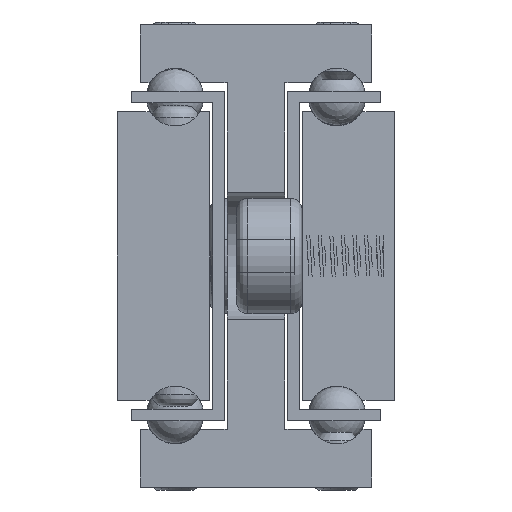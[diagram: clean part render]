
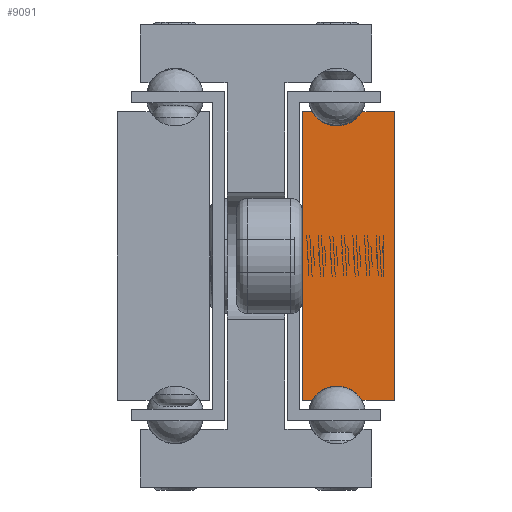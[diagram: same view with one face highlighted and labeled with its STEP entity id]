
A CAD part, front view. The second image highlights one B-rep face of the part: STEP entity #9091.
In plain terms, the highlighted planar face has unit normal (0, -1, 0).
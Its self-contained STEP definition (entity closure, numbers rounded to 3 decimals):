
#518=LINE('',#12792,#1352);
#521=LINE('',#12798,#1355);
#525=LINE('',#12810,#1359);
#528=LINE('',#12816,#1362);
#531=LINE('',#12822,#1365);
#535=LINE('',#12832,#1369);
#1352=VECTOR('',#10496,1.);
#1355=VECTOR('',#10501,1.);
#1359=VECTOR('',#10513,1.);
#1362=VECTOR('',#10518,1.);
#1365=VECTOR('',#10523,1.);
#1369=VECTOR('',#10535,1.);
#2191=PLANE('',#9753);
#2757=FACE_OUTER_BOUND('',#3337,.T.);
#3337=EDGE_LOOP('',(#6556,#6557,#6558,#6559,#6560,#6561,#6562,#6563));
#4085=CIRCLE('',#9744,2.5);
#4087=CIRCLE('',#9750,2.5);
#4312=VERTEX_POINT('',#12789);
#4313=VERTEX_POINT('',#12791);
#4315=VERTEX_POINT('',#12797);
#4317=VERTEX_POINT('',#12803);
#4319=VERTEX_POINT('',#12809);
#4321=VERTEX_POINT('',#12815);
#4323=VERTEX_POINT('',#12821);
#4325=VERTEX_POINT('',#12827);
#5254=EDGE_CURVE('',#4313,#4312,#518,.T.);
#5257=EDGE_CURVE('',#4315,#4313,#521,.T.);
#5260=EDGE_CURVE('',#4317,#4315,#4085,.T.);
#5263=EDGE_CURVE('',#4319,#4317,#525,.T.);
#5266=EDGE_CURVE('',#4321,#4319,#528,.T.);
#5269=EDGE_CURVE('',#4323,#4321,#531,.T.);
#5272=EDGE_CURVE('',#4325,#4323,#4087,.T.);
#5275=EDGE_CURVE('',#4312,#4325,#535,.T.);
#6556=ORIENTED_EDGE('',*,*,#5275,.T.);
#6557=ORIENTED_EDGE('',*,*,#5272,.T.);
#6558=ORIENTED_EDGE('',*,*,#5269,.T.);
#6559=ORIENTED_EDGE('',*,*,#5266,.T.);
#6560=ORIENTED_EDGE('',*,*,#5263,.T.);
#6561=ORIENTED_EDGE('',*,*,#5260,.T.);
#6562=ORIENTED_EDGE('',*,*,#5257,.T.);
#6563=ORIENTED_EDGE('',*,*,#5254,.T.);
#9091=ADVANCED_FACE('',(#2757),#2191,.T.);
#9744=AXIS2_PLACEMENT_3D('',#12804,#10507,#10508);
#9750=AXIS2_PLACEMENT_3D('',#12828,#10529,#10530);
#9753=AXIS2_PLACEMENT_3D('',#12834,#10538,#10539);
#10496=DIRECTION('',(0.,0.,-1.));
#10501=DIRECTION('',(-1.,0.,0.));
#10507=DIRECTION('center_axis',(0.,1.,0.));
#10508=DIRECTION('ref_axis',(-0.866,0.,-0.5));
#10513=DIRECTION('',(-1.,0.,0.));
#10518=DIRECTION('',(0.,0.,1.));
#10523=DIRECTION('',(1.,0.,0.));
#10529=DIRECTION('center_axis',(0.,1.,0.));
#10530=DIRECTION('ref_axis',(0.866,0.,0.5));
#10535=DIRECTION('',(1.,0.,0.));
#10538=DIRECTION('center_axis',(0.,-1.,0.));
#10539=DIRECTION('ref_axis',(1.,0.,0.));
#12789=CARTESIAN_POINT('',(2370.636,1213.343,312.5));
#12791=CARTESIAN_POINT('',(2370.636,1213.343,337.5));
#12792=CARTESIAN_POINT('',(2370.636,1213.343,312.5));
#12797=CARTESIAN_POINT('',(2371.471,1213.343,337.5));
#12798=CARTESIAN_POINT('',(2370.636,1213.343,337.5));
#12803=CARTESIAN_POINT('',(2375.801,1213.343,337.5));
#12804=CARTESIAN_POINT('Origin',(2373.636,1213.343,338.75));
#12809=CARTESIAN_POINT('',(2378.636,1213.343,337.5));
#12810=CARTESIAN_POINT('',(2375.801,1213.343,337.5));
#12815=CARTESIAN_POINT('',(2378.636,1213.343,312.5));
#12816=CARTESIAN_POINT('',(2378.636,1213.343,337.5));
#12821=CARTESIAN_POINT('',(2375.801,1213.343,312.5));
#12822=CARTESIAN_POINT('',(2378.636,1213.343,312.5));
#12827=CARTESIAN_POINT('',(2371.471,1213.343,312.5));
#12828=CARTESIAN_POINT('Origin',(2373.636,1213.343,311.25));
#12832=CARTESIAN_POINT('',(2371.471,1213.343,312.5));
#12834=CARTESIAN_POINT('Origin',(2374.648,1213.343,325.));
